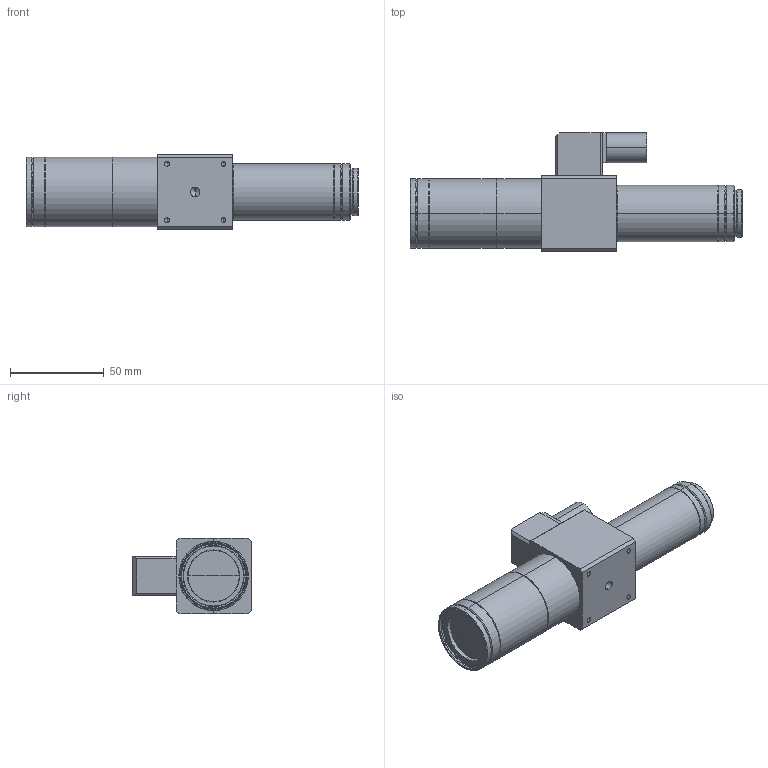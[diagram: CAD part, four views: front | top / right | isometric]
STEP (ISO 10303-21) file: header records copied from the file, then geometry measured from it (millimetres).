
FILE_DESCRIPTION (( 'STEP AP203' ), '1' );
FILE_NAME ('VS-TM10-55CO.STEP', '2015-09-29T09:09:43', ( 'miura_vst' ), ( '' ), 'SwSTEP 2.0', 'SolidWorks 2015', '' );
FILE_SCHEMA (( 'CONFIG_CONTROL_DESIGN' ));
Length unit declared in the file: millimetre
Products named in the file (1): VS-TM10-55CO
Bounding box: 176.8 x 63 x 40 mm (x, y, z)
Volume: 178080.5 mm3; surface area: 32798.1 mm2
Topology: 1 solids, 1 shells, 165 faces, 361 edges, 206 vertices
Faces by surface type: cone 72, cylinder 60, plane 31, sphere 2
Entity records: 4673 total; most frequent: CARTESIAN_POINT 934, DIRECTION 845, ORIENTED_EDGE 702, EDGE_CURVE 351, AXIS2_PLACEMENT_3D 336, VERTEX_POINT 206, EDGE_LOOP 183, LINE 173
